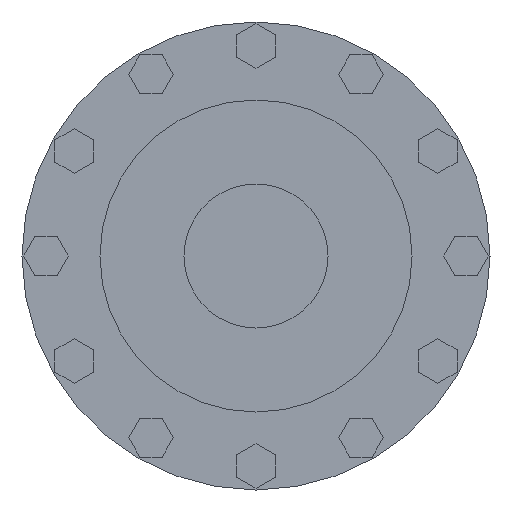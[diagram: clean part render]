
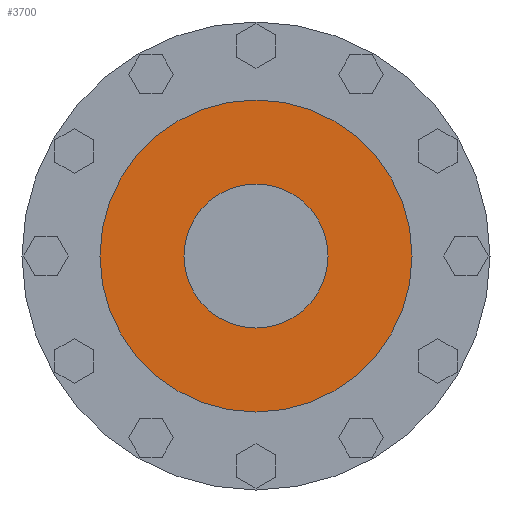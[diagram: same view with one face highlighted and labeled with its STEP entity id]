
A CAD part, left-side view. The second image highlights one B-rep face of the part: STEP entity #3700.
In plain terms, the highlighted planar face has unit normal (-1, 0, 0).
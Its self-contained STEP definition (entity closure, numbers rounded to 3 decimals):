
#6=CARTESIAN_POINT('',(-265.,0.,0.));
#7=DIRECTION('',(1.,0.,0.));
#8=DIRECTION('',(0.,1.,0.));
#9=AXIS2_PLACEMENT_3D('',#6,#7,#8);
#773=CARTESIAN_POINT('',(-265.,0.,0.));
#774=DIRECTION('',(-1.,0.,0.));
#775=DIRECTION('',(0.,1.,0.));
#776=AXIS2_PLACEMENT_3D('',#773,#774,#775);
#778=CARTESIAN_POINT('',(-265.,0.,0.));
#779=DIRECTION('',(1.,0.,0.));
#780=DIRECTION('',(0.,1.,0.));
#781=AXIS2_PLACEMENT_3D('',#778,#779,#780);
#792=CARTESIAN_POINT('',(-265.,0.,0.));
#793=DIRECTION('',(-1.,0.,0.));
#794=DIRECTION('',(0.,1.,0.));
#795=AXIS2_PLACEMENT_3D('',#792,#793,#794);
#2294=CARTESIAN_POINT('',(-265.,65.,0.));
#2296=VERTEX_POINT('',#2294);
#2302=CARTESIAN_POINT('',(-265.,-65.,0.));
#2304=VERTEX_POINT('',#2302);
#2325=CARTESIAN_POINT('',(-265.,30.,0.));
#2326=VERTEX_POINT('',#2325);
#2327=CARTESIAN_POINT('',(-265.,-30.,0.));
#2328=VERTEX_POINT('',#2327);
#3686=CARTESIAN_POINT('',(-265.,0.,0.));
#3687=DIRECTION('',(1.,0.,0.));
#3688=DIRECTION('',(0.,-1.,0.));
#3689=AXIS2_PLACEMENT_3D('',#3686,#3687,#3688);
#3690=PLANE('',#3689);
#3691=ORIENTED_EDGE('',*,*,#3679,.F.);
#3692=ORIENTED_EDGE('',*,*,#3668,.T.);
#3693=EDGE_LOOP('',(#3691,#3692));
#3694=FACE_OUTER_BOUND('',#3693,.F.);
#3695=ORIENTED_EDGE('',*,*,#3034,.F.);
#3697=ORIENTED_EDGE('',*,*,#3696,.T.);
#3698=EDGE_LOOP('',(#3695,#3697));
#3699=FACE_BOUND('',#3698,.F.);
#3700=ADVANCED_FACE('',(#3694,#3699),#3690,.F.);
#10=CIRCLE('',#9,30.);
#777=CIRCLE('',#776,65.);
#782=CIRCLE('',#781,65.);
#796=CIRCLE('',#795,30.);
#3034=EDGE_CURVE('',#2326,#2328,#10,.T.);
#3668=EDGE_CURVE('',#2296,#2304,#782,.T.);
#3679=EDGE_CURVE('',#2296,#2304,#777,.T.);
#3696=EDGE_CURVE('',#2326,#2328,#796,.T.);
